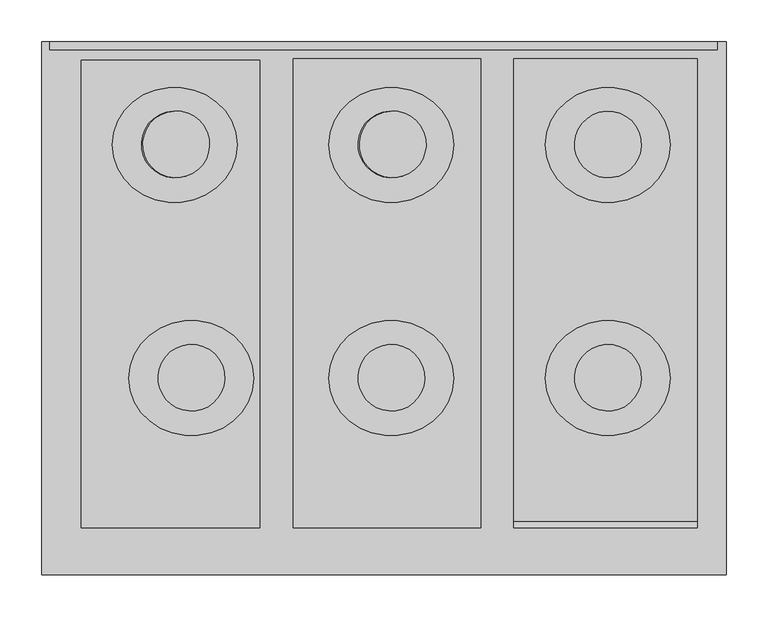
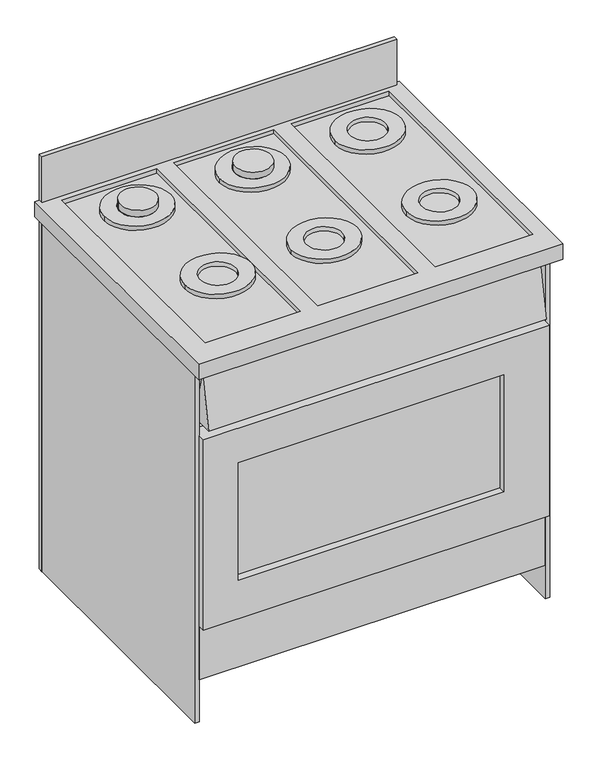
"""IFC4 building model written with IfcOpenShell, lengths in millimetres: furniture geometry, lkfogo_6_bocas_10561 : lkfogo_6_bocas_10561."""

from ifc_helpers import new_model, si_unit, point, frame, origin, origin_with_axes, place, context, project, spatial, polyline, circle_curve, ellipse_curve, trimmed, outline, extrude, source, transform, mapped, element, save
from ifc_brep_helpers import plane_surface, extruded_surface, advanced_brep


def furniture_9bc7e8ff(model_context):
    return source(origin(), model_context, "Body", "SolidModel", [
        advanced_brep(
        [(530.1437267, 223.2600301, 905.0), (452.8696606, 243.9655537, 905.0), (530.1437267, 223.2600301, 890.0), (452.8696606, 243.9655537, 890.0)],
        [
            (0, 1, circle_curve(frame((491.5066936, 233.6127919, 905.0), z_axis=(0.0, 0.0, 1.0), x_axis=(-0.9659258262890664, 0.25881904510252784, 0.0)), 40.0)),
            (1, 0, circle_curve(frame((491.5066936, 233.6127919, 905.0), z_axis=(0.0, 0.0, 1.0), x_axis=(-0.9659258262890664, 0.25881904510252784, 0.0)), 40.0)),
            (2, 3, ellipse_curve(frame((491.5066936, 233.6127919, 890.0), z_axis=(0.0, 0.0, -1.0), x_axis=(-0.9659258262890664, 0.25881904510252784, 0.0)), 40.0, 40.0)),
            (3, 2, ellipse_curve(frame((491.5066936, 233.6127919, 890.0), z_axis=(0.0, 0.0, -1.0), x_axis=(-0.9659258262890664, 0.25881904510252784, 0.0)), 40.0, 40.0)),
            (0, 2),
            (3, 1),
        ],
        [
            plane_surface(frame((452.8696606, 243.9655537, 905.0), z_axis=(0.0, 0.0, 1.0), x_axis=(-0.25881904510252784, -0.9659258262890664, 0.0))),
            plane_surface(frame((452.8696606, 243.9655537, 890.0), z_axis=(0.0, 0.0, -1.0), x_axis=(0.25881904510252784, 0.9659258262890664, 0.0))),
            extruded_surface(trimmed(ellipse_curve(frame((491.5066936, 233.6127919, 875.0), z_axis=(0.0, 0.0, 1.0), x_axis=(-0.9659258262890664, 0.25881904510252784, 0.0)), 40.0, 40.0), [point((530.1437267, 223.2600301, 875.0))], [point((452.8696606, 243.9655537, 875.0))], True, "CARTESIAN"), (0.0, 0.0, 15.0), 15.0),
            extruded_surface(trimmed(ellipse_curve(frame((491.5066936, 233.6127919, 875.0), z_axis=(0.0, 0.0, 1.0), x_axis=(-0.9659258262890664, 0.25881904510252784, 0.0)), 40.0, 40.0), [point((452.8696606, 243.9655537, 875.0))], [point((530.1437267, 223.2600301, 875.0))], True, "CARTESIAN"), (0.0, 0.0, 15.0), 15.0),
        ],
        [
            (0, [[1, 2]]),
            (1, [[3, 4]]),
            (2, [[-1, 5, -4, 6]]),
            (3, [[-2, -6, -3, -5]]),
        ],
    ),
        advanced_brep(
        [(324.6814671, -47.0057825, 890.0), (174.6814671, -47.0057825, 890.0), (288.4797092, -56.8560186, 890.0), (211.2056431, -36.150495, 890.0), (324.6814671, -47.0057825, 880.0), (174.6814671, -47.0057825, 880.0), (288.4797092, -56.8560186, 880.0), (211.2056431, -36.150495, 880.0)],
        [
            (0, 1, ellipse_curve(frame((249.6814671, -47.0057825, 890.0), z_axis=(0.0, 0.0, 1.0), x_axis=(-1.0, 0.0, 0.0)), 75.0, 69.2003795)),
            (1, 0, ellipse_curve(frame((249.6814671, -47.0057825, 890.0), z_axis=(0.0, 0.0, 1.0), x_axis=(-1.0, 0.0, 0.0)), 75.0, 69.2003795)),
            (2, 3, circle_curve(frame((249.8426761, -46.5032568, 890.0), z_axis=(0.0, 0.0, -1.0), x_axis=(-0.9659258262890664, 0.25881904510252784, 0.0)), 40.0)),
            (3, 2, circle_curve(frame((249.8426761, -46.5032568, 890.0), z_axis=(0.0, 0.0, -1.0), x_axis=(-0.9659258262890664, 0.25881904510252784, 0.0)), 40.0)),
            (4, 5, ellipse_curve(frame((249.6814671, -47.0057825, 880.0), z_axis=(0.0, 0.0, -1.0), x_axis=(-1.0, 0.0, 0.0)), 75.0, 69.2003795)),
            (5, 4, ellipse_curve(frame((249.6814671, -47.0057825, 880.0), z_axis=(0.0, 0.0, -1.0), x_axis=(-1.0, 0.0, 0.0)), 75.0, 69.2003795)),
            (6, 7, circle_curve(frame((249.8426761, -46.5032568, 880.0), z_axis=(0.0, 0.0, 1.0), x_axis=(-0.9659258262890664, 0.25881904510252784, 0.0)), 40.0)),
            (7, 6, circle_curve(frame((249.8426761, -46.5032568, 880.0), z_axis=(0.0, 0.0, 1.0), x_axis=(-0.9659258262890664, 0.25881904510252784, 0.0)), 40.0)),
            (0, 4),
            (5, 1),
            (2, 6),
            (7, 3),
        ],
        [
            plane_surface(frame((174.6814671, -47.0057825, 890.0), z_axis=(0.0, 0.0, 1.0), x_axis=(0.0, -1.0, 0.0))),
            plane_surface(frame((174.6814671, -47.0057825, 880.0), z_axis=(0.0, 0.0, -1.0), x_axis=(0.0, 1.0, 0.0))),
            extruded_surface(trimmed(ellipse_curve(frame((249.6814671, -47.0057825, 870.0), z_axis=(0.0, 0.0, 1.0), x_axis=(-1.0, 0.0, 0.0)), 75.0, 69.2003795), [point((324.6814671, -47.0057825, 870.0))], [point((174.6814671, -47.0057825, 870.0))], True, "CARTESIAN"), (0.0, 0.0, 10.0), 10.0),
            extruded_surface(trimmed(ellipse_curve(frame((249.6814671, -47.0057825, 870.0), z_axis=(0.0, 0.0, 1.0), x_axis=(-1.0, 0.0, 0.0)), 75.0, 69.2003795), [point((174.6814671, -47.0057825, 870.0))], [point((324.6814671, -47.0057825, 870.0))], True, "CARTESIAN"), (0.0, 0.0, 10.0), 10.0),
            extruded_surface(trimmed(ellipse_curve(frame((249.8426761, -46.5032568, -10.0), z_axis=(0.0, 0.0, -1.0), x_axis=(-0.9659258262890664, 0.25881904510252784, 0.0)), 40.0, 40.0), [point((288.4797092, -56.8560186, -10.0))], [point((211.2056431, -36.150495, -10.0))], True, "CARTESIAN"), (0.0, 0.0, 10.0), 10.0),
            extruded_surface(trimmed(ellipse_curve(frame((249.8426761, -46.5032568, -10.0), z_axis=(0.0, 0.0, -1.0), x_axis=(-0.9659258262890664, 0.25881904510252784, 0.0)), 40.0, 40.0), [point((211.2056431, -36.150495, -10.0))], [point((288.4797092, -56.8560186, -10.0))], True, "CARTESIAN"), (0.0, 0.0, 10.0), 10.0),
        ],
        [
            (0, [[1, 2], [3, 4]]),
            (1, [[5, 6], [7, 8]]),
            (2, [[-1, 9, -6, 10]]),
            (3, [[-2, -10, -5, -9]]),
            (4, [[-3, 11, -8, 12]]),
            (5, [[-4, -12, -7, -11]]),
        ],
    ),
        advanced_brep(
        [(564.6814671, -47.0057825, 890.0), (414.6814671, -47.0057825, 890.0), (528.4797092, -56.8560186, 890.0), (451.2056431, -36.150495, 890.0), (564.6814671, -47.0057825, 880.0), (414.6814671, -47.0057825, 880.0), (528.4797092, -56.8560186, 880.0), (451.2056431, -36.150495, 880.0)],
        [
            (0, 1, ellipse_curve(frame((489.6814671, -47.0057825, 890.0), z_axis=(0.0, 0.0, 1.0), x_axis=(-1.0, 0.0, 0.0)), 75.0, 69.2003795)),
            (1, 0, ellipse_curve(frame((489.6814671, -47.0057825, 890.0), z_axis=(0.0, 0.0, 1.0), x_axis=(-1.0, 0.0, 0.0)), 75.0, 69.2003795)),
            (2, 3, circle_curve(frame((489.8426761, -46.5032568, 890.0), z_axis=(0.0, 0.0, -1.0), x_axis=(-0.9659258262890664, 0.25881904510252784, 0.0)), 40.0)),
            (3, 2, circle_curve(frame((489.8426761, -46.5032568, 890.0), z_axis=(0.0, 0.0, -1.0), x_axis=(-0.9659258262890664, 0.25881904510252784, 0.0)), 40.0)),
            (4, 5, ellipse_curve(frame((489.6814671, -47.0057825, 880.0), z_axis=(0.0, 0.0, -1.0), x_axis=(-1.0, 0.0, 0.0)), 75.0, 69.2003795)),
            (5, 4, ellipse_curve(frame((489.6814671, -47.0057825, 880.0), z_axis=(0.0, 0.0, -1.0), x_axis=(-1.0, 0.0, 0.0)), 75.0, 69.2003795)),
            (6, 7, circle_curve(frame((489.8426761, -46.5032568, 880.0), z_axis=(0.0, 0.0, 1.0), x_axis=(-0.9659258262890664, 0.25881904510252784, 0.0)), 40.0)),
            (7, 6, circle_curve(frame((489.8426761, -46.5032568, 880.0), z_axis=(0.0, 0.0, 1.0), x_axis=(-0.9659258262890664, 0.25881904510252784, 0.0)), 40.0)),
            (0, 4),
            (5, 1),
            (2, 6),
            (7, 3),
        ],
        [
            plane_surface(frame((414.6814671, -47.0057825, 890.0), z_axis=(0.0, 0.0, 1.0), x_axis=(0.0, -1.0, 0.0))),
            plane_surface(frame((414.6814671, -47.0057825, 880.0), z_axis=(0.0, 0.0, -1.0), x_axis=(0.0, 1.0, 0.0))),
            extruded_surface(trimmed(ellipse_curve(frame((489.6814671, -47.0057825, 870.0), z_axis=(0.0, 0.0, 1.0), x_axis=(-1.0, 0.0, 0.0)), 75.0, 69.2003795), [point((564.6814671, -47.0057825, 870.0))], [point((414.6814671, -47.0057825, 870.0))], True, "CARTESIAN"), (0.0, 0.0, 10.0), 10.0),
            extruded_surface(trimmed(ellipse_curve(frame((489.6814671, -47.0057825, 870.0), z_axis=(0.0, 0.0, 1.0), x_axis=(-1.0, 0.0, 0.0)), 75.0, 69.2003795), [point((414.6814671, -47.0057825, 870.0))], [point((564.6814671, -47.0057825, 870.0))], True, "CARTESIAN"), (0.0, 0.0, 10.0), 10.0),
            extruded_surface(trimmed(ellipse_curve(frame((489.8426761, -46.5032568, -10.0), z_axis=(0.0, 0.0, -1.0), x_axis=(-0.9659258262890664, 0.25881904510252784, 0.0)), 40.0, 40.0), [point((528.4797092, -56.8560186, -10.0))], [point((451.2056431, -36.150495, -10.0))], True, "CARTESIAN"), (0.0, 0.0, 10.0), 10.0),
            extruded_surface(trimmed(ellipse_curve(frame((489.8426761, -46.5032568, -10.0), z_axis=(0.0, 0.0, -1.0), x_axis=(-0.9659258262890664, 0.25881904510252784, 0.0)), 40.0, 40.0), [point((451.2056431, -36.150495, -10.0))], [point((528.4797092, -56.8560186, -10.0))], True, "CARTESIAN"), (0.0, 0.0, 10.0), 10.0),
        ],
        [
            (0, [[1, 2], [3, 4]]),
            (1, [[5, 6], [7, 8]]),
            (2, [[-1, 9, -6, 10]]),
            (3, [[-2, -10, -5, -9]]),
            (4, [[-3, 11, -8, 12]]),
            (5, [[-4, -12, -7, -11]]),
        ],
    ),
        advanced_brep(
        [(824.6814671, -47.0057825, 890.0), (674.6814671, -47.0057825, 890.0), (788.4797092, -56.8560186, 890.0), (711.2056431, -36.150495, 890.0), (824.6814671, -47.0057825, 880.0), (674.6814671, -47.0057825, 880.0), (788.4797092, -56.8560186, 880.0), (711.2056431, -36.150495, 880.0)],
        [
            (0, 1, ellipse_curve(frame((749.6814671, -47.0057825, 890.0), z_axis=(0.0, 0.0, 1.0), x_axis=(-1.0, 0.0, 0.0)), 75.0, 69.2003795)),
            (1, 0, ellipse_curve(frame((749.6814671, -47.0057825, 890.0), z_axis=(0.0, 0.0, 1.0), x_axis=(-1.0, 0.0, 0.0)), 75.0, 69.2003795)),
            (2, 3, circle_curve(frame((749.8426761, -46.5032568, 890.0), z_axis=(0.0, 0.0, -1.0), x_axis=(-0.9659258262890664, 0.25881904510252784, 0.0)), 40.0)),
            (3, 2, circle_curve(frame((749.8426761, -46.5032568, 890.0), z_axis=(0.0, 0.0, -1.0), x_axis=(-0.9659258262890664, 0.25881904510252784, 0.0)), 40.0)),
            (4, 5, ellipse_curve(frame((749.6814671, -47.0057825, 880.0), z_axis=(0.0, 0.0, -1.0), x_axis=(-1.0, 0.0, 0.0)), 75.0, 69.2003795)),
            (5, 4, ellipse_curve(frame((749.6814671, -47.0057825, 880.0), z_axis=(0.0, 0.0, -1.0), x_axis=(-1.0, 0.0, 0.0)), 75.0, 69.2003795)),
            (6, 7, circle_curve(frame((749.8426761, -46.5032568, 880.0), z_axis=(0.0, 0.0, 1.0), x_axis=(-0.9659258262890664, 0.25881904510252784, 0.0)), 40.0)),
            (7, 6, circle_curve(frame((749.8426761, -46.5032568, 880.0), z_axis=(0.0, 0.0, 1.0), x_axis=(-0.9659258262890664, 0.25881904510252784, 0.0)), 40.0)),
            (0, 4),
            (5, 1),
            (2, 6),
            (7, 3),
        ],
        [
            plane_surface(frame((674.6814671, -47.0057825, 890.0), z_axis=(0.0, 0.0, 1.0), x_axis=(0.0, -1.0, 0.0))),
            plane_surface(frame((674.6814671, -47.0057825, 880.0), z_axis=(0.0, 0.0, -1.0), x_axis=(0.0, 1.0, 0.0))),
            extruded_surface(trimmed(ellipse_curve(frame((749.6814671, -47.0057825, 870.0), z_axis=(0.0, 0.0, 1.0), x_axis=(-1.0, 0.0, 0.0)), 75.0, 69.2003795), [point((824.6814671, -47.0057825, 870.0))], [point((674.6814671, -47.0057825, 870.0))], True, "CARTESIAN"), (0.0, 0.0, 10.0), 10.0),
            extruded_surface(trimmed(ellipse_curve(frame((749.6814671, -47.0057825, 870.0), z_axis=(0.0, 0.0, 1.0), x_axis=(-1.0, 0.0, 0.0)), 75.0, 69.2003795), [point((674.6814671, -47.0057825, 870.0))], [point((824.6814671, -47.0057825, 870.0))], True, "CARTESIAN"), (0.0, 0.0, 10.0), 10.0),
            extruded_surface(trimmed(ellipse_curve(frame((749.8426761, -46.5032568, -10.0), z_axis=(0.0, 0.0, -1.0), x_axis=(-0.9659258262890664, 0.25881904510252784, 0.0)), 40.0, 40.0), [point((788.4797092, -56.8560186, -10.0))], [point((711.2056431, -36.150495, -10.0))], True, "CARTESIAN"), (0.0, 0.0, 10.0), 10.0),
            extruded_surface(trimmed(ellipse_curve(frame((749.8426761, -46.5032568, -10.0), z_axis=(0.0, 0.0, -1.0), x_axis=(-0.9659258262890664, 0.25881904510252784, 0.0)), 40.0, 40.0), [point((711.2056431, -36.150495, -10.0))], [point((788.4797092, -56.8560186, -10.0))], True, "CARTESIAN"), (0.0, 0.0, 10.0), 10.0),
        ],
        [
            (0, [[1, 2], [3, 4]]),
            (1, [[5, 6], [7, 8]]),
            (2, [[-1, 9, -6, 10]]),
            (3, [[-2, -10, -5, -9]]),
            (4, [[-3, 11, -8, 12]]),
            (5, [[-4, -12, -7, -11]]),
        ],
    ),
        advanced_brep(
        [(824.6814671, 232.9942175, 890.0), (674.6814671, 232.9942175, 890.0), (788.4797092, 223.1439814, 890.0), (711.2056431, 243.849505, 890.0), (824.6814671, 232.9942175, 880.0), (674.6814671, 232.9942175, 880.0), (788.4797092, 223.1439814, 880.0), (711.2056431, 243.849505, 880.0)],
        [
            (0, 1, ellipse_curve(frame((749.6814671, 232.9942175, 890.0), z_axis=(0.0, 0.0, 1.0), x_axis=(-1.0, 0.0, 0.0)), 75.0, 69.2003795)),
            (1, 0, ellipse_curve(frame((749.6814671, 232.9942175, 890.0), z_axis=(0.0, 0.0, 1.0), x_axis=(-1.0, 0.0, 0.0)), 75.0, 69.2003795)),
            (2, 3, circle_curve(frame((749.8426761, 233.4967432, 890.0), z_axis=(0.0, 0.0, -1.0), x_axis=(-0.9659258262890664, 0.25881904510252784, 0.0)), 40.0)),
            (3, 2, circle_curve(frame((749.8426761, 233.4967432, 890.0), z_axis=(0.0, 0.0, -1.0), x_axis=(-0.9659258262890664, 0.25881904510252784, 0.0)), 40.0)),
            (4, 5, ellipse_curve(frame((749.6814671, 232.9942175, 880.0), z_axis=(0.0, 0.0, -1.0), x_axis=(-1.0, 0.0, 0.0)), 75.0, 69.2003795)),
            (5, 4, ellipse_curve(frame((749.6814671, 232.9942175, 880.0), z_axis=(0.0, 0.0, -1.0), x_axis=(-1.0, 0.0, 0.0)), 75.0, 69.2003795)),
            (6, 7, circle_curve(frame((749.8426761, 233.4967432, 880.0), z_axis=(0.0, 0.0, 1.0), x_axis=(-0.9659258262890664, 0.25881904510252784, 0.0)), 40.0)),
            (7, 6, circle_curve(frame((749.8426761, 233.4967432, 880.0), z_axis=(0.0, 0.0, 1.0), x_axis=(-0.9659258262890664, 0.25881904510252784, 0.0)), 40.0)),
            (0, 4),
            (5, 1),
            (2, 6),
            (7, 3),
        ],
        [
            plane_surface(frame((674.6814671, 232.9942175, 890.0), z_axis=(0.0, 0.0, 1.0), x_axis=(0.0, -1.0, 0.0))),
            plane_surface(frame((674.6814671, 232.9942175, 880.0), z_axis=(0.0, 0.0, -1.0), x_axis=(0.0, 1.0, 0.0))),
            extruded_surface(trimmed(ellipse_curve(frame((749.6814671, 232.9942175, 870.0), z_axis=(0.0, 0.0, 1.0), x_axis=(-1.0, 0.0, 0.0)), 75.0, 69.2003795), [point((824.6814671, 232.9942175, 870.0))], [point((674.6814671, 232.9942175, 870.0))], True, "CARTESIAN"), (0.0, 0.0, 10.0), 10.0),
            extruded_surface(trimmed(ellipse_curve(frame((749.6814671, 232.9942175, 870.0), z_axis=(0.0, 0.0, 1.0), x_axis=(-1.0, 0.0, 0.0)), 75.0, 69.2003795), [point((674.6814671, 232.9942175, 870.0))], [point((824.6814671, 232.9942175, 870.0))], True, "CARTESIAN"), (0.0, 0.0, 10.0), 10.0),
            extruded_surface(trimmed(ellipse_curve(frame((749.8426761, 233.4967432, -10.0), z_axis=(0.0, 0.0, -1.0), x_axis=(-0.9659258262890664, 0.25881904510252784, 0.0)), 40.0, 40.0), [point((788.4797092, 223.1439814, -10.0))], [point((711.2056431, 243.849505, -10.0))], True, "CARTESIAN"), (0.0, 0.0, 10.0), 10.0),
            extruded_surface(trimmed(ellipse_curve(frame((749.8426761, 233.4967432, -10.0), z_axis=(0.0, 0.0, -1.0), x_axis=(-0.9659258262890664, 0.25881904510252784, 0.0)), 40.0, 40.0), [point((711.2056431, 243.849505, -10.0))], [point((788.4797092, 223.1439814, -10.0))], True, "CARTESIAN"), (0.0, 0.0, 10.0), 10.0),
        ],
        [
            (0, [[1, 2], [3, 4]]),
            (1, [[5, 6], [7, 8]]),
            (2, [[-1, 9, -6, 10]]),
            (3, [[-2, -10, -5, -9]]),
            (4, [[-3, 11, -8, 12]]),
            (5, [[-4, -12, -7, -11]]),
        ],
    ),
        advanced_brep(
        [(564.6814671, 232.9942175, 890.0), (414.6814671, 232.9942175, 890.0), (528.4797092, 223.1439814, 890.0), (451.2056431, 243.849505, 890.0), (564.6814671, 232.9942175, 880.0), (414.6814671, 232.9942175, 880.0), (528.4797092, 223.1439814, 880.0), (451.2056431, 243.849505, 880.0)],
        [
            (0, 1, ellipse_curve(frame((489.6814671, 232.9942175, 890.0), z_axis=(0.0, 0.0, 1.0), x_axis=(-1.0, 0.0, 0.0)), 75.0, 69.2003795)),
            (1, 0, ellipse_curve(frame((489.6814671, 232.9942175, 890.0), z_axis=(0.0, 0.0, 1.0), x_axis=(-1.0, 0.0, 0.0)), 75.0, 69.2003795)),
            (2, 3, circle_curve(frame((489.8426761, 233.4967432, 890.0), z_axis=(0.0, 0.0, -1.0), x_axis=(-0.9659258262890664, 0.25881904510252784, 0.0)), 40.0)),
            (3, 2, circle_curve(frame((489.8426761, 233.4967432, 890.0), z_axis=(0.0, 0.0, -1.0), x_axis=(-0.9659258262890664, 0.25881904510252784, 0.0)), 40.0)),
            (4, 5, ellipse_curve(frame((489.6814671, 232.9942175, 880.0), z_axis=(0.0, 0.0, -1.0), x_axis=(-1.0, 0.0, 0.0)), 75.0, 69.2003795)),
            (5, 4, ellipse_curve(frame((489.6814671, 232.9942175, 880.0), z_axis=(0.0, 0.0, -1.0), x_axis=(-1.0, 0.0, 0.0)), 75.0, 69.2003795)),
            (6, 7, circle_curve(frame((489.8426761, 233.4967432, 880.0), z_axis=(0.0, 0.0, 1.0), x_axis=(-0.9659258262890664, 0.25881904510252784, 0.0)), 40.0)),
            (7, 6, circle_curve(frame((489.8426761, 233.4967432, 880.0), z_axis=(0.0, 0.0, 1.0), x_axis=(-0.9659258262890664, 0.25881904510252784, 0.0)), 40.0)),
            (0, 4),
            (5, 1),
            (2, 6),
            (7, 3),
        ],
        [
            plane_surface(frame((414.6814671, 232.9942175, 890.0), z_axis=(0.0, 0.0, 1.0), x_axis=(0.0, -1.0, 0.0))),
            plane_surface(frame((414.6814671, 232.9942175, 880.0), z_axis=(0.0, 0.0, -1.0), x_axis=(0.0, 1.0, 0.0))),
            extruded_surface(trimmed(ellipse_curve(frame((489.6814671, 232.9942175, 870.0), z_axis=(0.0, 0.0, 1.0), x_axis=(-1.0, 0.0, 0.0)), 75.0, 69.2003795), [point((564.6814671, 232.9942175, 870.0))], [point((414.6814671, 232.9942175, 870.0))], True, "CARTESIAN"), (0.0, 0.0, 10.0), 10.0),
            extruded_surface(trimmed(ellipse_curve(frame((489.6814671, 232.9942175, 870.0), z_axis=(0.0, 0.0, 1.0), x_axis=(-1.0, 0.0, 0.0)), 75.0, 69.2003795), [point((414.6814671, 232.9942175, 870.0))], [point((564.6814671, 232.9942175, 870.0))], True, "CARTESIAN"), (0.0, 0.0, 10.0), 10.0),
            extruded_surface(trimmed(ellipse_curve(frame((489.8426761, 233.4967432, -10.0), z_axis=(0.0, 0.0, -1.0), x_axis=(-0.9659258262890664, 0.25881904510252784, 0.0)), 40.0, 40.0), [point((528.4797092, 223.1439814, -10.0))], [point((451.2056431, 243.849505, -10.0))], True, "CARTESIAN"), (0.0, 0.0, 10.0), 10.0),
            extruded_surface(trimmed(ellipse_curve(frame((489.8426761, 233.4967432, -10.0), z_axis=(0.0, 0.0, -1.0), x_axis=(-0.9659258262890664, 0.25881904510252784, 0.0)), 40.0, 40.0), [point((451.2056431, 243.849505, -10.0))], [point((528.4797092, 223.1439814, -10.0))], True, "CARTESIAN"), (0.0, 0.0, 10.0), 10.0),
        ],
        [
            (0, [[1, 2], [3, 4]]),
            (1, [[5, 6], [7, 8]]),
            (2, [[-1, 9, -6, 10]]),
            (3, [[-2, -10, -5, -9]]),
            (4, [[-3, 11, -8, 12]]),
            (5, [[-4, -12, -7, -11]]),
        ],
    ),
        advanced_brep(
        [(270.1437267, 223.2600301, 905.0), (192.8696606, 243.9655537, 905.0), (270.1437267, 223.2600301, 890.0), (192.8696606, 243.9655537, 890.0)],
        [
            (0, 1, circle_curve(frame((231.5066936, 233.6127919, 905.0), z_axis=(0.0, 0.0, 1.0), x_axis=(-0.9659258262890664, 0.25881904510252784, 0.0)), 40.0)),
            (1, 0, circle_curve(frame((231.5066936, 233.6127919, 905.0), z_axis=(0.0, 0.0, 1.0), x_axis=(-0.9659258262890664, 0.25881904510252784, 0.0)), 40.0)),
            (2, 3, ellipse_curve(frame((231.5066936, 233.6127919, 890.0), z_axis=(0.0, 0.0, -1.0), x_axis=(-0.9659258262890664, 0.25881904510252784, 0.0)), 40.0, 40.0)),
            (3, 2, ellipse_curve(frame((231.5066936, 233.6127919, 890.0), z_axis=(0.0, 0.0, -1.0), x_axis=(-0.9659258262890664, 0.25881904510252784, 0.0)), 40.0, 40.0)),
            (0, 2),
            (3, 1),
        ],
        [
            plane_surface(frame((192.8696606, 243.9655537, 905.0), z_axis=(0.0, 0.0, 1.0), x_axis=(-0.25881904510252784, -0.9659258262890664, 0.0))),
            plane_surface(frame((192.8696606, 243.9655537, 890.0), z_axis=(0.0, 0.0, -1.0), x_axis=(0.25881904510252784, 0.9659258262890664, 0.0))),
            extruded_surface(trimmed(ellipse_curve(frame((231.5066936, 233.6127919, 875.0), z_axis=(0.0, 0.0, 1.0), x_axis=(-0.9659258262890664, 0.25881904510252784, 0.0)), 40.0, 40.0), [point((270.1437267, 223.2600301, 875.0))], [point((192.8696606, 243.9655537, 875.0))], True, "CARTESIAN"), (0.0, 0.0, 15.0), 15.0),
            extruded_surface(trimmed(ellipse_curve(frame((231.5066936, 233.6127919, 875.0), z_axis=(0.0, 0.0, 1.0), x_axis=(-0.9659258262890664, 0.25881904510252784, 0.0)), 40.0, 40.0), [point((192.8696606, 243.9655537, 875.0))], [point((270.1437267, 223.2600301, 875.0))], True, "CARTESIAN"), (0.0, 0.0, 15.0), 15.0),
        ],
        [
            (0, [[1, 2]]),
            (1, [[3, 4]]),
            (2, [[-1, 5, -4, 6]]),
            (3, [[-2, -6, -3, -5]]),
        ],
    ),
        extrude(outline(polyline([(331.9785964, 334.4892551), (331.9785964, -250.0), (117.6848792, -250.0), (117.6848792, 334.4892551), (331.9785964, 334.4892551)])), frame((0.0, 0.0, 860.0), z_axis=(0.0, 0.0, 1.0), x_axis=(1.0, 0.0, 0.0)), (0.0, 0.0, 1.0), 10.0),
        extrude(outline(polyline([(596.9422065, 348.2477121), (596.9422065, -226.337767), (371.9785964, -226.337767), (371.9785964, 348.2477121), (596.9422065, 348.2477121)])), frame((0.0, 0.0, 860.0), z_axis=(0.0, 0.0, 1.0), x_axis=(1.0, 0.0, 0.0)), (0.0, 0.0, 1.0), 10.0),
        extrude(outline(polyline([(871.0, 336.2905194), (871.0, -218.8511244), (636.9422065, -218.8511244), (636.9422065, 336.2905194), (871.0, 336.2905194)])), frame((0.0, 0.0, 860.0), z_axis=(0.0, 0.0, 1.0), x_axis=(1.0, 0.0, 0.0)), (0.0, 0.0, 1.0), 10.0),
        advanced_brep(
        [(304.6814671, 232.9942175, 890.0), (154.6814671, 232.9942175, 890.0), (268.4797092, 223.1439814, 890.0), (191.2056431, 243.849505, 890.0), (304.6814671, 232.9942175, 880.0), (154.6814671, 232.9942175, 880.0), (268.4797092, 223.1439814, 880.0), (191.2056431, 243.849505, 880.0)],
        [
            (0, 1, ellipse_curve(frame((229.6814671, 232.9942175, 890.0), z_axis=(0.0, 0.0, 1.0), x_axis=(-1.0, 0.0, 0.0)), 75.0, 69.2003795)),
            (1, 0, ellipse_curve(frame((229.6814671, 232.9942175, 890.0), z_axis=(0.0, 0.0, 1.0), x_axis=(-1.0, 0.0, 0.0)), 75.0, 69.2003795)),
            (2, 3, circle_curve(frame((229.8426761, 233.4967432, 890.0), z_axis=(0.0, 0.0, -1.0), x_axis=(-0.9659258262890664, 0.25881904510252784, 0.0)), 40.0)),
            (3, 2, circle_curve(frame((229.8426761, 233.4967432, 890.0), z_axis=(0.0, 0.0, -1.0), x_axis=(-0.9659258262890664, 0.25881904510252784, 0.0)), 40.0)),
            (4, 5, ellipse_curve(frame((229.6814671, 232.9942175, 880.0), z_axis=(0.0, 0.0, -1.0), x_axis=(-1.0, 0.0, 0.0)), 75.0, 69.2003795)),
            (5, 4, ellipse_curve(frame((229.6814671, 232.9942175, 880.0), z_axis=(0.0, 0.0, -1.0), x_axis=(-1.0, 0.0, 0.0)), 75.0, 69.2003795)),
            (6, 7, circle_curve(frame((229.8426761, 233.4967432, 880.0), z_axis=(0.0, 0.0, 1.0), x_axis=(-0.9659258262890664, 0.25881904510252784, 0.0)), 40.0)),
            (7, 6, circle_curve(frame((229.8426761, 233.4967432, 880.0), z_axis=(0.0, 0.0, 1.0), x_axis=(-0.9659258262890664, 0.25881904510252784, 0.0)), 40.0)),
            (0, 4),
            (5, 1),
            (2, 6),
            (7, 3),
        ],
        [
            plane_surface(frame((154.6814671, 232.9942175, 890.0), z_axis=(0.0, 0.0, 1.0), x_axis=(0.0, -1.0, 0.0))),
            plane_surface(frame((154.6814671, 232.9942175, 880.0), z_axis=(0.0, 0.0, -1.0), x_axis=(0.0, 1.0, 0.0))),
            extruded_surface(trimmed(ellipse_curve(frame((229.6814671, 232.9942175, 870.0), z_axis=(0.0, 0.0, 1.0), x_axis=(-1.0, 0.0, 0.0)), 75.0, 69.2003795), [point((304.6814671, 232.9942175, 870.0))], [point((154.6814671, 232.9942175, 870.0))], True, "CARTESIAN"), (0.0, 0.0, 10.0), 10.0),
            extruded_surface(trimmed(ellipse_curve(frame((229.6814671, 232.9942175, 870.0), z_axis=(0.0, 0.0, 1.0), x_axis=(-1.0, 0.0, 0.0)), 75.0, 69.2003795), [point((154.6814671, 232.9942175, 870.0))], [point((304.6814671, 232.9942175, 870.0))], True, "CARTESIAN"), (0.0, 0.0, 10.0), 10.0),
            extruded_surface(trimmed(ellipse_curve(frame((229.8426761, 233.4967432, -10.0), z_axis=(0.0, 0.0, -1.0), x_axis=(-0.9659258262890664, 0.25881904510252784, 0.0)), 40.0, 40.0), [point((268.4797092, 223.1439814, -10.0))], [point((191.2056431, 243.849505, -10.0))], True, "CARTESIAN"), (0.0, 0.0, 10.0), 10.0),
            extruded_surface(trimmed(ellipse_curve(frame((229.8426761, 233.4967432, -10.0), z_axis=(0.0, 0.0, -1.0), x_axis=(-0.9659258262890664, 0.25881904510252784, 0.0)), 40.0, 40.0), [point((191.2056431, 243.849505, -10.0))], [point((268.4797092, 223.1439814, -10.0))], True, "CARTESIAN"), (0.0, 0.0, 10.0), 10.0),
        ],
        [
            (0, [[1, 2], [3, 4]]),
            (1, [[5, 6], [7, 8]]),
            (2, [[-1, 9, -6, 10]]),
            (3, [[-2, -10, -5, -9]]),
            (4, [[-3, 11, -8, 12]]),
            (5, [[-4, -12, -7, -11]]),
        ],
    ),
        extrude(outline(polyline([(891.9422065, 356.8998128), (891.9422065, -283.1001872), (70.0, -283.1001872), (70.0, 356.8998128), (891.9422065, 356.8998128)]), holes=[polyline([(331.9785964, 334.4892551), (117.6848792, 334.4892551), (117.6848792, -226.337767), (331.9785964, -226.337767), (331.9785964, 334.4892551)]), polyline([(596.9422065, 336.2905194), (371.9785964, 336.2905194), (371.9785964, -226.337767), (596.9422065, -226.337767), (596.9422065, 336.2905194)]), polyline([(856.9422065, 336.2905194), (636.9422065, 336.2905194), (636.9422065, -226.337767), (856.9422065, -226.337767), (856.9422065, 336.2905194)])]), frame((0.0, 0.0, 843.3845259), z_axis=(0.0, 0.0, 1.0), x_axis=(1.0, 0.0, 0.0)), (0.0, 0.0, 1.0), 36.6154741),
        extrude(outline(polyline([(881.0, 356.8998128), (881.0, 346.8998128), (80.0, 346.8998128), (80.0, 356.8998128), (881.0, 356.8998128)])), origin_with_axes(), (0.0, 0.0, 1.0), 990.0),
        extrude(outline(polyline([(146.0, -106.7522879), (837.9571927, -106.7522879), (837.9571927, -111.7522879), (146.0, -111.7522879), (146.0, -106.7522879)])), frame((0.0, 0.0, 420.3930766), z_axis=(0.0, 0.0, 1.0), x_axis=(1.0, 0.0, 0.0)), (0.0, 0.0, 1.0), 10.0),
        extrude(outline(polyline([(146.0, -26.7522879), (837.9571927, -26.7522879), (837.9571927, -31.7522879), (146.0, -31.7522879), (146.0, -26.7522879)])), frame((0.0, 0.0, 420.3930766), z_axis=(0.0, 0.0, 1.0), x_axis=(1.0, 0.0, 0.0)), (0.0, 0.0, 1.0), 10.0),
        extrude(outline(polyline([(146.0, 73.2477121), (837.9571927, 73.2477121), (837.9571927, 68.2477121), (146.0, 68.2477121), (146.0, 73.2477121)])), frame((0.0, 0.0, 420.3930766), z_axis=(0.0, 0.0, 1.0), x_axis=(1.0, 0.0, 0.0)), (0.0, 0.0, 1.0), 10.0),
        extrude(outline(polyline([(146.0, 133.2477121), (837.9571927, 133.2477121), (837.9571927, 128.2477121), (146.0, 128.2477121), (146.0, 133.2477121)])), frame((0.0, 0.0, 420.3930766), z_axis=(0.0, 0.0, 1.0), x_axis=(1.0, 0.0, 0.0)), (0.0, 0.0, 1.0), 10.0),
        extrude(outline(polyline([(146.0, 213.2477121), (837.9571927, 213.2477121), (837.9571927, 208.2477121), (146.0, 208.2477121), (146.0, 213.2477121)])), frame((0.0, 0.0, 420.3930766), z_axis=(0.0, 0.0, 1.0), x_axis=(1.0, 0.0, 0.0)), (0.0, 0.0, 1.0), 10.0),
        extrude(outline(polyline([(146.0, 293.2477121), (837.9571927, 293.2477121), (837.9571927, 288.2477121), (146.0, 288.2477121), (146.0, 293.2477121)])), frame((0.0, 0.0, 420.3930766), z_axis=(0.0, 0.0, 1.0), x_axis=(1.0, 0.0, 0.0)), (0.0, 0.0, 1.0), 10.0),
        extrude(outline(polyline([(146.0, 336.2905194), (837.9571927, 336.2905194), (837.9571927, 328.2477121), (146.0, 328.2477121), (146.0, 336.2905194)])), frame((0.0, 0.0, 420.3930766), z_axis=(0.0, 0.0, 1.0), x_axis=(1.0, 0.0, 0.0)), (0.0, 0.0, 1.0), 10.0),
        extrude(outline(polyline([(146.0, -183.7094806), (837.9571927, -183.7094806), (837.9571927, -191.7522879), (146.0, -191.7522879), (146.0, -183.7094806)])), frame((0.0, 0.0, 420.3930766), z_axis=(0.0, 0.0, 1.0), x_axis=(1.0, 0.0, 0.0)), (0.0, 0.0, 1.0), 10.0),
        extrude(outline(polyline([(846.0, 348.2477121), (846.0, -191.7522879), (837.9571927, -191.7522879), (837.9571927, 348.2477121), (846.0, 348.2477121)])), frame((0.0, 0.0, 420.3930766), z_axis=(0.0, 0.0, 1.0), x_axis=(1.0, 0.0, 0.0)), (0.0, 0.0, 1.0), 10.0),
        extrude(outline(polyline([(146.9238343, 356.8998128), (146.9238343, -191.7522879), (139.9032606, -191.7522879), (139.9032606, 356.8998128), (146.9238343, 356.8998128)])), frame((0.0, 0.0, 420.3930766), z_axis=(0.0, 0.0, 1.0), x_axis=(1.0, 0.0, 0.0)), (0.0, 0.0, 1.0), 10.0),
        extrude(outline(polyline([(768.7039932, -250.0), (168.7039932, -250.0), (168.7039932, -204.1547765), (768.7039932, -204.1547765), (768.7039932, -250.0)])), frame((0.0, 0.0, 320.3930766), z_axis=(0.0, 0.0, 1.0), x_axis=(1.0, 0.0, 0.0)), (0.0, 0.0, 1.0), 280.0),
        extrude(outline(polyline([(-273.8511244, 705.2877095), (-250.0, 827.9911074), (-218.8511244, 705.2877095), (-273.8511244, 705.2877095)])), frame((97.9875573, 0.0, 0.0), z_axis=(1.0, 0.0, 0.0), x_axis=(0.0, 1.0, 0.0)), (0.0, 0.0, 1.0), 762.0124427),
        extrude(outline(polyline([(682.9911074, 871.0), (682.9911074, 90.0), (227.9911074, 90.0), (227.9911074, 871.0), (682.9911074, 871.0)]), holes=[polyline([(600.3930766, 768.7039932), (320.3930766, 768.7039932), (320.3930766, 168.7039932), (600.3930766, 168.7039932), (600.3930766, 768.7039932)])]), frame((0.0, -266.2082833, 0.0), z_axis=(0.0, 1.0, 0.0), x_axis=(0.0, 0.0, 1.0)), (0.0, 0.0, 1.0), 39.8705163),
        extrude(outline(polyline([(881.0, -250.0), (871.0, -250.0), (871.0, 356.8998128), (881.0, 356.8998128), (881.0, -250.0)])), frame((0.0, 0.0, 20.0), z_axis=(0.0, 0.0, 1.0), x_axis=(1.0, 0.0, 0.0)), (0.0, 0.0, 1.0), 823.3845259),
        extrude(outline(polyline([(90.0, -250.0), (80.0, -250.0), (80.0, 356.8998128), (90.0, 356.8998128), (90.0, -250.0)])), origin_with_axes(), (0.0, 0.0, 1.0), 843.3845259),
        extrude(outline(polyline([(871.0, -250.0), (90.0, -250.0), (90.0, 356.8998128), (871.0, 356.8998128), (871.0, -250.0)])), frame((0.0, 0.0, 100.0510874), z_axis=(0.0, 0.0, 1.0), x_axis=(1.0, 0.0, 0.0)), (0.0, 0.0, 1.0), 127.9400199),
    ])


if __name__ == "__main__":
    model = new_model("IFC4")
    model_context = context("Model", 3, world=origin())
    ifc_project = project(units=[si_unit("LENGTHUNIT", "METRE", prefix="MILLI")], contexts=[model_context])
    site = spatial("IfcSite", under=ifc_project)
    building = spatial("IfcBuilding", under=site)
    placement = place(None, origin())
    furniture_shape = furniture_9bc7e8ff(model_context)
    element("IfcFurniture", 1, ObjectType="lkfogo_6_bocas_10561 : lkfogo_6_bocas_10561", at=placement, inside=building, context=model_context, shape_type="MappedRepresentation", body=[
        mapped(furniture_shape, transform((0.0, 0.0, 0.0), x_axis=(1.0, 0.0, 0.0), y_axis=(0.0, 1.0, 0.0), z_axis=(0.0, 0.0, 1.0))),
    ])
    save(model, "model.ifc")
